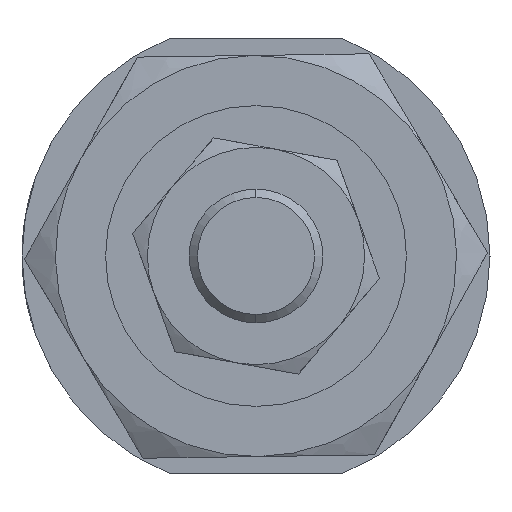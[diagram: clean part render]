
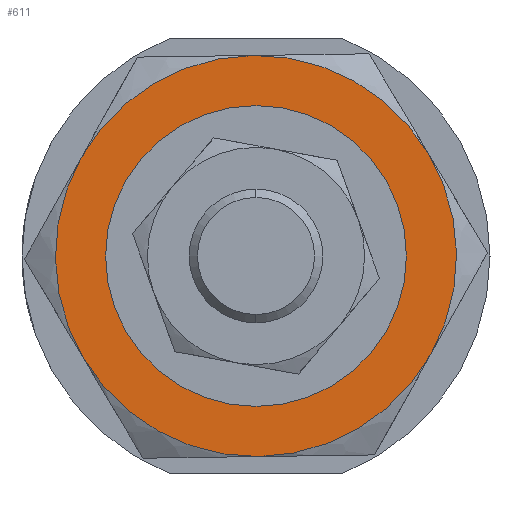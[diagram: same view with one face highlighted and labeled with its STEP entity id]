
A CAD part, left-side view. The second image highlights one B-rep face of the part: STEP entity #611.
In plain terms, the highlighted planar face has unit normal (-1, 0, 0) as drawn and (0, 0, -1) by its records, which use the part's own axes.
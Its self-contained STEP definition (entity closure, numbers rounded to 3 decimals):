
#2 = CARTESIAN_POINT ( 'NONE',  ( 0., 0., -4. ) ) ;
#18 = EDGE_CURVE ( 'NONE', #1011, #295, #265, .T. ) ;
#102 = AXIS2_PLACEMENT_3D ( 'NONE', #2, #560, #2000 ) ;
#144 = VERTEX_POINT ( 'NONE', #2113 ) ;
#210 = AXIS2_PLACEMENT_3D ( 'NONE', #2750, #1310, #2638 ) ;
#229 = VERTEX_POINT ( 'NONE', #1041 ) ;
#239 = DIRECTION ( 'NONE',  ( 1., 0., 0. ) ) ;
#265 = CIRCLE ( 'NONE', #1350, 12. ) ;
#292 = EDGE_LOOP ( 'NONE', ( #855, #2915 ) ) ;
#295 = VERTEX_POINT ( 'NONE', #1491 ) ;
#401 = DIRECTION ( 'NONE',  ( 0., 0., 1. ) ) ;
#509 = DIRECTION ( 'NONE',  ( 0., 0., 1. ) ) ;
#521 = DIRECTION ( 'NONE',  ( 1., 0., 0. ) ) ;
#560 = DIRECTION ( 'NONE',  ( 0., 0., 1. ) ) ;
#585 = CARTESIAN_POINT ( 'NONE',  ( -8.25, 0., -4. ) ) ;
#604 = EDGE_CURVE ( 'NONE', #1828, #1358, #2560, .T. ) ;
#611 = ADVANCED_FACE ( 'NONE', ( #709, #2049 ), #2150, .F. ) ;
#677 = CIRCLE ( 'NONE', #2921, 12. ) ;
#709 = FACE_BOUND ( 'NONE', #292, .T. ) ;
#710 = AXIS2_PLACEMENT_3D ( 'NONE', #2256, #926, #2660 ) ;
#727 = DIRECTION ( 'NONE',  ( 0., 0., 1. ) ) ;
#833 = EDGE_CURVE ( 'NONE', #1358, #1011, #2832, .T. ) ;
#855 = ORIENTED_EDGE ( 'NONE', *, *, #1626, .T. ) ;
#926 = DIRECTION ( 'NONE',  ( 0., 0., 1. ) ) ;
#993 = CARTESIAN_POINT ( 'NONE',  ( 6., 10.392, -4. ) ) ;
#1007 = CARTESIAN_POINT ( 'NONE',  ( 0., 0., -4. ) ) ;
#1009 = ORIENTED_EDGE ( 'NONE', *, *, #833, .F. ) ;
#1011 = VERTEX_POINT ( 'NONE', #1658 ) ;
#1041 = CARTESIAN_POINT ( 'NONE',  ( -6., 10.392, -4. ) ) ;
#1053 = ORIENTED_EDGE ( 'NONE', *, *, #604, .F. ) ;
#1054 = CIRCLE ( 'NONE', #1835, 8.25 ) ;
#1064 = EDGE_LOOP ( 'NONE', ( #1498, #1353, #1009, #1053, #1926, #3067 ) ) ;
#1155 = DIRECTION ( 'NONE',  ( 0., 0., 1. ) ) ;
#1310 = DIRECTION ( 'NONE',  ( 0., 0., 1. ) ) ;
#1311 = CARTESIAN_POINT ( 'NONE',  ( 0., 0., -4. ) ) ;
#1334 = EDGE_CURVE ( 'NONE', #229, #1828, #677, .T. ) ;
#1350 = AXIS2_PLACEMENT_3D ( 'NONE', #1819, #727, #521 ) ;
#1353 = ORIENTED_EDGE ( 'NONE', *, *, #18, .F. ) ;
#1358 = VERTEX_POINT ( 'NONE', #1838 ) ;
#1359 = CIRCLE ( 'NONE', #2140, 8.25 ) ;
#1376 = CIRCLE ( 'NONE', #210, 12. ) ;
#1491 = CARTESIAN_POINT ( 'NONE',  ( 12., 0., -4. ) ) ;
#1498 = ORIENTED_EDGE ( 'NONE', *, *, #1720, .F. ) ;
#1561 = DIRECTION ( 'NONE',  ( 1., 0., 0. ) ) ;
#1597 = CARTESIAN_POINT ( 'NONE',  ( -12., 0., -4. ) ) ;
#1626 = EDGE_CURVE ( 'NONE', #144, #2183, #1359, .T. ) ;
#1658 = CARTESIAN_POINT ( 'NONE',  ( 6., -10.392, -4. ) ) ;
#1720 = EDGE_CURVE ( 'NONE', #295, #1883, #2220, .T. ) ;
#1784 = EDGE_CURVE ( 'NONE', #1883, #229, #1376, .T. ) ;
#1819 = CARTESIAN_POINT ( 'NONE',  ( 0., 0., -4. ) ) ;
#1828 = VERTEX_POINT ( 'NONE', #1597 ) ;
#1835 = AXIS2_PLACEMENT_3D ( 'NONE', #1311, #1155, #2295 ) ;
#1838 = CARTESIAN_POINT ( 'NONE',  ( -6., -10.392, -4. ) ) ;
#1883 = VERTEX_POINT ( 'NONE', #993 ) ;
#1895 = CARTESIAN_POINT ( 'NONE',  ( 0., 0., -4. ) ) ;
#1926 = ORIENTED_EDGE ( 'NONE', *, *, #1334, .F. ) ;
#2000 = DIRECTION ( 'NONE',  ( 1., 0., 0. ) ) ;
#2049 = FACE_OUTER_BOUND ( 'NONE', #1064, .T. ) ;
#2113 = CARTESIAN_POINT ( 'NONE',  ( 8.25, 0., -4. ) ) ;
#2140 = AXIS2_PLACEMENT_3D ( 'NONE', #1895, #3126, #1561 ) ;
#2150 = PLANE ( 'NONE',  #102 ) ;
#2183 = VERTEX_POINT ( 'NONE', #585 ) ;
#2220 = CIRCLE ( 'NONE', #3089, 12. ) ;
#2236 = DIRECTION ( 'NONE',  ( 0., 0., 1. ) ) ;
#2256 = CARTESIAN_POINT ( 'NONE',  ( 0., 0., -4. ) ) ;
#2288 = CARTESIAN_POINT ( 'NONE',  ( 0., 0., -4. ) ) ;
#2295 = DIRECTION ( 'NONE',  ( 1., 0., 0. ) ) ;
#2360 = CARTESIAN_POINT ( 'NONE',  ( 0., 0., -4. ) ) ;
#2370 = EDGE_CURVE ( 'NONE', #2183, #144, #1054, .T. ) ;
#2560 = CIRCLE ( 'NONE', #710, 12. ) ;
#2638 = DIRECTION ( 'NONE',  ( 1., 0., 0. ) ) ;
#2660 = DIRECTION ( 'NONE',  ( 1., 0., 0. ) ) ;
#2717 = AXIS2_PLACEMENT_3D ( 'NONE', #2288, #401, #239 ) ;
#2750 = CARTESIAN_POINT ( 'NONE',  ( 0., 0., -4. ) ) ;
#2807 = DIRECTION ( 'NONE',  ( 1., 0., 0. ) ) ;
#2832 = CIRCLE ( 'NONE', #2717, 12. ) ;
#2915 = ORIENTED_EDGE ( 'NONE', *, *, #2370, .T. ) ;
#2921 = AXIS2_PLACEMENT_3D ( 'NONE', #1007, #2236, #2807 ) ;
#2933 = DIRECTION ( 'NONE',  ( 1., 0., 0. ) ) ;
#3067 = ORIENTED_EDGE ( 'NONE', *, *, #1784, .F. ) ;
#3089 = AXIS2_PLACEMENT_3D ( 'NONE', #2360, #509, #2933 ) ;
#3126 = DIRECTION ( 'NONE',  ( 0., 0., 1. ) ) ;
